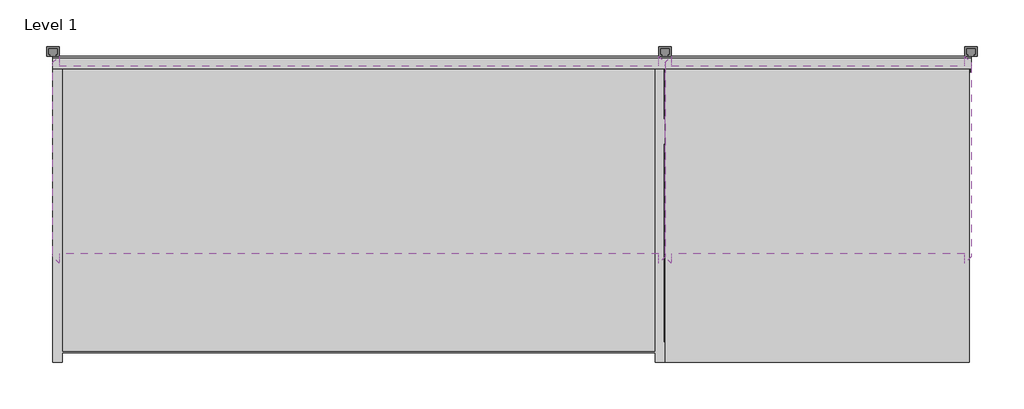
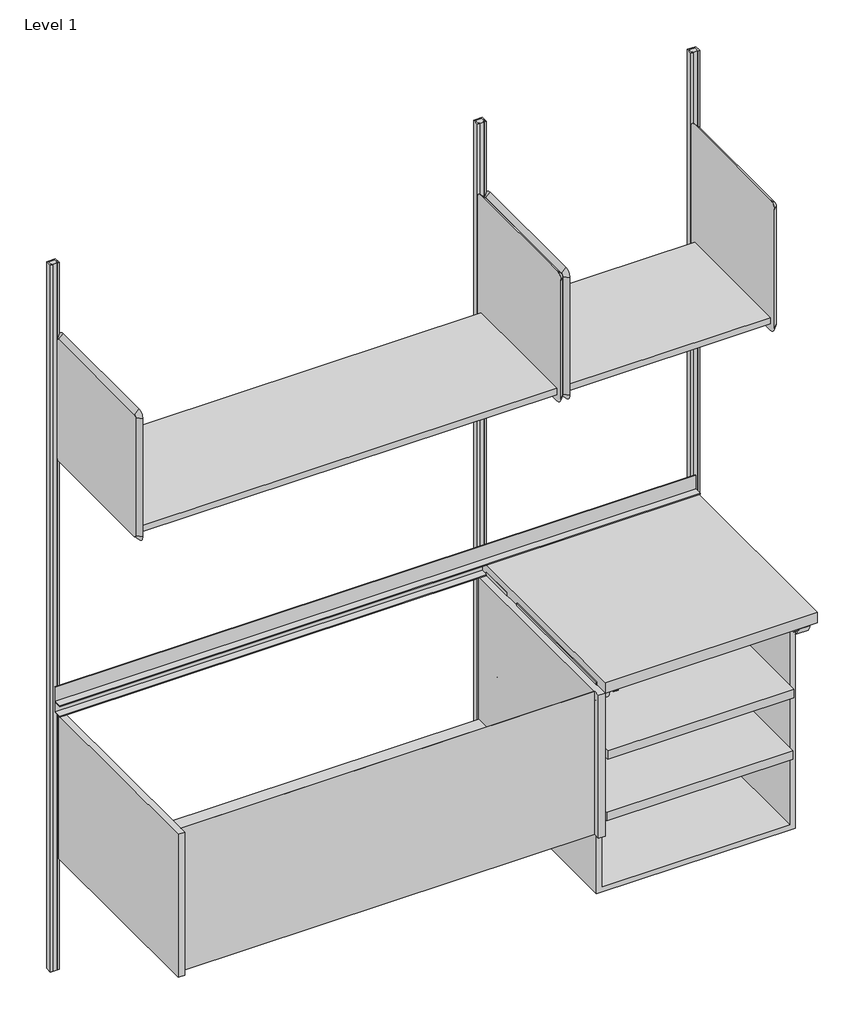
# One storey, incomplete: 13 furniture elements.
"""IFC4 building model written with IfcOpenShell, lengths in millimetres."""

from ifc_helpers import new_model, si_unit, origin, place, context, project, spatial, transform, mapped, element, save
from components import furniture_7f08a233, furniture_75e43aeb, furniture_d92eedc3, furniture_cb19eb71, furniture_09a9b8b3, furniture_197736b8, furniture_ea4a19f1, furniture_5dd508a7, furniture_3418a519, furniture_abf02616, furniture_ea425779

model = new_model("IFC4")

# Units and contexts
model_context = context("Model", 3, world=origin())
ifc_project = project(units=[si_unit("LENGTHUNIT", "METRE", prefix="MILLI")], contexts=[model_context])

# Site, building, storey
site = spatial("IfcSite", under=ifc_project)
building = spatial("IfcBuilding", under=site)
storey = spatial("IfcBuildingStorey", under=building, Name="Level 1", Elevation=0.0)

# Furniture
placement = place(None, origin())
furniture_shape = furniture_7f08a233(model_context)
element("IfcFurniture", 1, ObjectType="HermanMiller_CoStruc_C2141_Heavy-DutyWorkSurface : 24\"D x 24\"W Lam", at=placement, inside=storey, context=model_context, shape_type="MappedRepresentation", body=[
    mapped(furniture_shape, transform((1522.37694, -196.85, 0.0), x_axis=(1.0, 0.0, 0.0), y_axis=(0.0, 1.0, 0.0), z_axis=(0.0, 0.0, 1.0))),
])
furniture_2_shape = furniture_75e43aeb(model_context)
element("IfcFurniture", 2, ObjectType="HermanMiller_CoStruc_C2140H_WorkSurfaceSupport_Heavy Duty : 11\"H x 24\"D x 24\"W", at=placement, inside=storey, context=model_context, shape_type="MappedRepresentation", body=[
    mapped(furniture_2_shape, transform((1522.37694, -196.85, 0.0), x_axis=(1.0, 0.0, 0.0), y_axis=(0.0, 1.0, 0.0), z_axis=(0.0, 0.0, 1.0))),
])
furniture_3_shape = furniture_d92eedc3(model_context)
element("IfcFurniture", 3, ObjectType="HermanMiller_CoStruc_C2910_WorkSurfaceBacksplash : 3\"H x 72\"W", at=placement, inside=storey, context=model_context, shape_type="MappedRepresentation", body=[
    mapped(furniture_3_shape, transform((914.4, -19.05, 0.0), x_axis=(1.0, 0.0, 0.0), y_axis=(0.0, 1.0, 0.0), z_axis=(0.0, 0.0, 1.0))),
])
furniture_4_shape = furniture_cb19eb71(model_context)
element("IfcFurniture", 4, ObjectType="HermanMiller_CoStruc_C5041_StorageCaseShelf : 23\"D x 22\"W", at=placement, inside=storey, context=model_context, shape_type="MappedRepresentation", body=[
    mapped(furniture_4_shape, transform((1660.1328004, -872.3913812, 0.0), x_axis=(1.0, 0.0, 0.0), y_axis=(0.0, 1.0, 0.0), z_axis=(0.0, 0.0, 1.0))),
])
furniture_5_shape = furniture_09a9b8b3(model_context)
element("IfcFurniture", 5, ObjectType="HermanMiller_CoStruc_C5041_StorageCaseShelf : 23\"D x 22\"W", at=placement, inside=storey, context=model_context, shape_type="MappedRepresentation", body=[
    mapped(furniture_5_shape, transform((1662.4670604, -872.3913812, 0.0), x_axis=(1.0, 0.0, 0.0), y_axis=(0.0, 1.0, 0.0), z_axis=(0.0, 0.0, 1.0))),
])
furniture_6_shape = furniture_197736b8(model_context)
element("IfcFurniture", 6, ObjectType="HermanMiller_CoStruc_C5040_StorageCase : 25\"H x 23\"D x 22\"W", at=placement, inside=storey, context=model_context, shape_type="MappedRepresentation", body=[
    mapped(furniture_6_shape, transform((1501.73944, -315.43498, 0.0), x_axis=(1.0, 0.0, 0.0), y_axis=(0.0, 1.0, 0.0), z_axis=(0.0, 0.0, 1.0))),
])
furniture_7_shape = furniture_ea4a19f1(model_context)
element("IfcFurniture", 7, ObjectType="HermanMiller_CoStruc_C2512_SinkModule : 18\"H x 24\"D x 48\"W", at=placement, inside=storey, context=model_context, shape_type="MappedRepresentation", body=[
    mapped(furniture_7_shape, transform((609.6, -206.375, 0.0), x_axis=(1.0, 0.0, 0.0), y_axis=(0.0, 1.0, 0.0), z_axis=(0.0, 0.0, 1.0))),
])
furniture_8_shape = furniture_5dd508a7(model_context)
element("IfcFurniture", 8, ObjectType="HermanMiller_ActionOffice_A3210_B-StyleShelf : 15-1/2H 16D 48W", at=placement, inside=storey, context=model_context, shape_type="MappedRepresentation", body=[
    mapped(furniture_8_shape, transform((733.5420045, -238.125, 0.0), x_axis=(1.0, 0.0, 0.0), y_axis=(0.0, 1.0, 0.0), z_axis=(0.0, 0.0, 1.0))),
])
furniture_9_shape = furniture_3418a519(model_context)
element("IfcFurniture", 9, ObjectType="HermanMiller_ActionOffice_A3210_B-StyleShelf : 15-1/2H 16D 24W", at=placement, inside=storey, context=model_context, shape_type="MappedRepresentation", body=[
    mapped(furniture_9_shape, transform((1647.9420045, -238.125, 0.0), x_axis=(1.0, 0.0, 0.0), y_axis=(0.0, 1.0, 0.0), z_axis=(0.0, 0.0, 1.0))),
])
furniture_10_shape = furniture_abf02616(model_context)
element("IfcFurniture", 10, ObjectType="HermanMiller_CoStruc_C1610_AdapterRail : 24\"W", at=placement, inside=storey, context=model_context, shape_type="MappedRepresentation", body=[
    mapped(furniture_10_shape, transform((1522.37694, -34.925, 0.0), x_axis=(1.0, 0.0, 0.0), y_axis=(0.0, 1.0, 0.0), z_axis=(0.0, 0.0, 1.0))),
])
furniture_11_shape = furniture_ea425779(model_context)
element("IfcFurniture", 11, ObjectType="HermanMiller_ActionOffice_AO213_WallStrip : 84\"H", at=placement, inside=storey, context=model_context, shape_type="MappedRepresentation", body=[
    mapped(furniture_11_shape, transform((1219.2, 0.0, 0.0), x_axis=(1.0, 0.0, 0.0), y_axis=(0.0, 1.0, 0.0), z_axis=(0.0, 0.0, 1.0))),
])
element("IfcFurniture", 12, ObjectType="HermanMiller_ActionOffice_AO213_WallStrip : 84\"H", at=placement, inside=storey, context=model_context, shape_type="MappedRepresentation", body=[
    mapped(furniture_11_shape, transform((1828.8, 0.0, 0.0), x_axis=(1.0, 0.0, 0.0), y_axis=(0.0, 1.0, 0.0), z_axis=(0.0, 0.0, 1.0))),
])
element("IfcFurniture", 13, ObjectType="HermanMiller_ActionOffice_AO213_WallStrip : 84\"H", at=placement, inside=storey, context=model_context, shape_type="MappedRepresentation", body=[
    mapped(furniture_11_shape, transform((0.0, 0.0, 0.0), x_axis=(1.0, 0.0, 0.0), y_axis=(0.0, 1.0, 0.0), z_axis=(0.0, 0.0, 1.0))),
])

save(model, "model.ifc")
